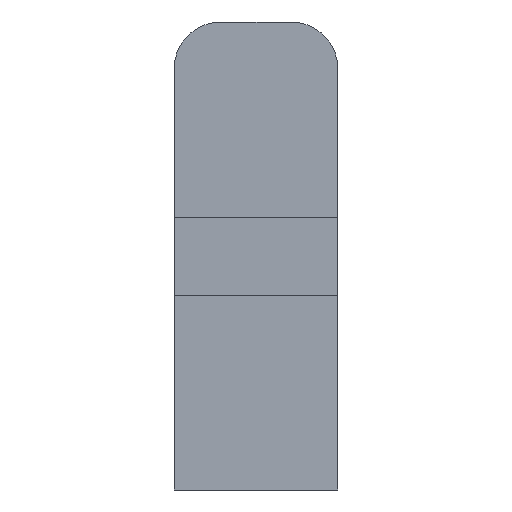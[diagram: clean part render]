
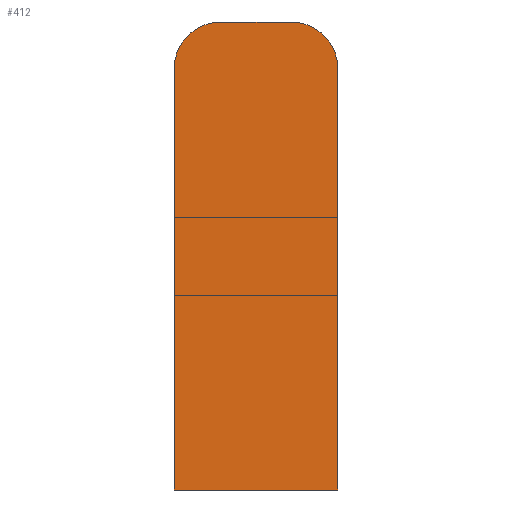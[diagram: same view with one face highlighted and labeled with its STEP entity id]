
A CAD part, front view. The second image highlights one B-rep face of the part: STEP entity #412.
In plain terms, the highlighted planar face has unit normal (0, -1, 0).
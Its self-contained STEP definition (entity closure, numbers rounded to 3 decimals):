
#2 = VECTOR ( 'NONE', #246, 1000. ) ;
#19 = LINE ( 'NONE', #253, #34 ) ;
#34 = VECTOR ( 'NONE', #256, 1000. ) ;
#42 = EDGE_LOOP ( 'NONE', ( #99, #97, #98, #93, #92, #91 ) ) ;
#91 = ORIENTED_EDGE ( 'NONE', *, *, #370, .T. ) ;
#92 = ORIENTED_EDGE ( 'NONE', *, *, #356, .T. ) ;
#93 = ORIENTED_EDGE ( 'NONE', *, *, #364, .T. ) ;
#97 = ORIENTED_EDGE ( 'NONE', *, *, #358, .T. ) ;
#98 = ORIENTED_EDGE ( 'NONE', *, *, #361, .T. ) ;
#99 = ORIENTED_EDGE ( 'NONE', *, *, #351, .T. ) ;
#116 = LINE ( 'NONE', #266, #120 ) ;
#117 = CIRCLE ( 'NONE', #384, 3. ) ;
#120 = VECTOR ( 'NONE', #267, 1000. ) ;
#128 = CIRCLE ( 'NONE', #374, 3. ) ;
#137 = LINE ( 'NONE', #288, #138 ) ;
#138 = VECTOR ( 'NONE', #289, 1000. ) ;
#155 = FACE_OUTER_BOUND ( 'NONE', #42, .T. ) ;
#175 = VERTEX_POINT ( 'NONE', #218 ) ;
#180 = VERTEX_POINT ( 'NONE', #215 ) ;
#182 = VERTEX_POINT ( 'NONE', #222 ) ;
#184 = VERTEX_POINT ( 'NONE', #224 ) ;
#186 = VERTEX_POINT ( 'NONE', #226 ) ;
#190 = VERTEX_POINT ( 'NONE', #230 ) ;
#215 = CARTESIAN_POINT ( 'NONE',  ( -5.25, 0., 10.5 ) ) ;
#218 = CARTESIAN_POINT ( 'NONE',  ( 5.25, 0., 10.5 ) ) ;
#222 = CARTESIAN_POINT ( 'NONE',  ( 2.25, 0., 13.5 ) ) ;
#224 = CARTESIAN_POINT ( 'NONE',  ( -5.25, 0., -16.5 ) ) ;
#226 = CARTESIAN_POINT ( 'NONE',  ( -2.25, 0., 13.5 ) ) ;
#230 = CARTESIAN_POINT ( 'NONE',  ( 5.25, 0., -16.5 ) ) ;
#246 = DIRECTION ( 'NONE',  ( 0., 0., -1. ) ) ;
#248 = CARTESIAN_POINT ( 'NONE',  ( 2.25, 0., 10.5 ) ) ;
#250 = CARTESIAN_POINT ( 'NONE',  ( -5.25, 0., -16.5 ) ) ;
#253 = CARTESIAN_POINT ( 'NONE',  ( 5.25, 0., -16.5 ) ) ;
#256 = DIRECTION ( 'NONE',  ( 0., 0., 1. ) ) ;
#259 = DIRECTION ( 'NONE',  ( 0., -1., 0. ) ) ;
#260 = DIRECTION ( 'NONE',  ( -1., 0., 0. ) ) ;
#266 = CARTESIAN_POINT ( 'NONE',  ( 2.25, 0., 13.5 ) ) ;
#267 = DIRECTION ( 'NONE',  ( -1., 0., 0. ) ) ;
#268 = CARTESIAN_POINT ( 'NONE',  ( -2.25, 0., 10.5 ) ) ;
#276 = DIRECTION ( 'NONE',  ( 0., -1., 0. ) ) ;
#277 = DIRECTION ( 'NONE',  ( -1., 0., 0. ) ) ;
#288 = CARTESIAN_POINT ( 'NONE',  ( 5.25, 0., -16.5 ) ) ;
#289 = DIRECTION ( 'NONE',  ( 1., 0., 0. ) ) ;
#313 = PLANE ( 'NONE',  #393 ) ;
#317 = CARTESIAN_POINT ( 'NONE',  ( 0., 0., -1.5 ) ) ;
#326 = DIRECTION ( 'NONE',  ( 0., 1., 0. ) ) ;
#327 = DIRECTION ( 'NONE',  ( -1., 0., 0. ) ) ;
#351 = EDGE_CURVE ( 'NONE', #190, #175, #19, .T. ) ;
#356 = EDGE_CURVE ( 'NONE', #180, #184, #400, .T. ) ;
#358 = EDGE_CURVE ( 'NONE', #175, #182, #117, .T. ) ;
#361 = EDGE_CURVE ( 'NONE', #182, #186, #116, .T. ) ;
#364 = EDGE_CURVE ( 'NONE', #186, #180, #128, .T. ) ;
#370 = EDGE_CURVE ( 'NONE', #184, #190, #137, .T. ) ;
#374 = AXIS2_PLACEMENT_3D ( 'NONE', #268, #276, #277 ) ;
#384 = AXIS2_PLACEMENT_3D ( 'NONE', #248, #259, #260 ) ;
#393 = AXIS2_PLACEMENT_3D ( 'NONE', #317, #326, #327 ) ;
#400 = LINE ( 'NONE', #250, #2 ) ;
#412 = ADVANCED_FACE ( 'NONE', ( #155 ), #313, .F. ) ;
